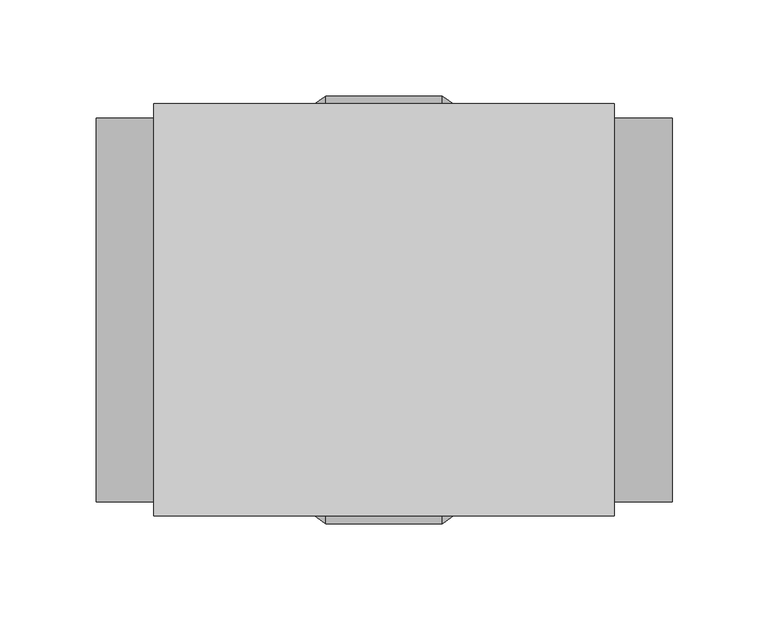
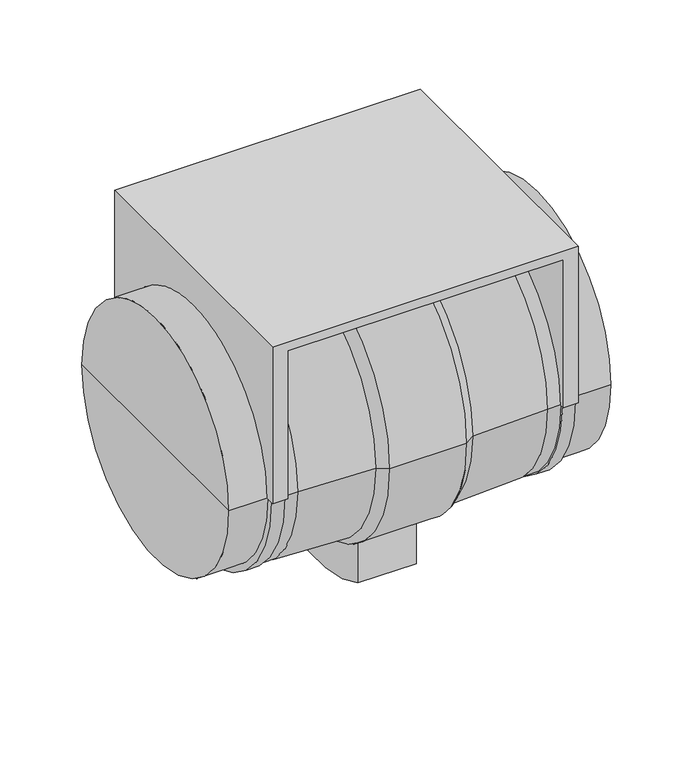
"""IFC4 building model written with IfcOpenShell, lengths in millimetres: unitary equipment geometry, VE-Wentylator-ParaForma-Harmann-ML-Nawiewny : 200/950."""

import ifcopenshell
import ifcopenshell.guid

model = None  # the IFC model being written
_history = None  # IfcOwnerHistory: only IFC2X3 demands one
_inside = {}  # id of a spatial element -> (the spatial element, [elements in it])
_under = {}  # id of a project, library or spatial element -> (it, [spatial elements below it])
_declared = {}  # id of a project -> (the project, [libraries it declares])
_typed = {}  # id of a type object -> (the type object, [elements of that type])
_made_of = {}  # id of a material, layer set ... -> (it, [elements and type objects made of it])


def new_model(schema):
    """Start an empty IFC model of exactly this schema.

    Asked for "IFC4X3", IfcOpenShell would pick the latest addendum, in which some entities
    have other attributes; the version numbers below select the first issue.
    IFC2X3 requires an IfcOwnerHistory on every rooted entity: one is made here for all.
    """
    global model, _history
    if schema == "IFC4X3":
        model = ifcopenshell.file(schema_version=(4, 3, 0, 0))
    else:
        model = ifcopenshell.file(schema=schema)
    _inside.clear()
    _under.clear()
    _declared.clear()
    _typed.clear()
    _made_of.clear()
    _history = None
    if model.schema == "IFC2X3":
        org = make("IfcOrganization", Name="unknown")
        user = make(
            "IfcPersonAndOrganization",
            ThePerson=make("IfcPerson", FamilyName="unknown"),
            TheOrganization=org,
        )
        app = make(
            "IfcApplication",
            ApplicationDeveloper=org,
            Version="unknown",
            ApplicationFullName="unknown",
            ApplicationIdentifier="unknown",
        )
        _history = make(
            "IfcOwnerHistory",
            OwningUser=user,
            OwningApplication=app,
            ChangeAction="ADDED",
            CreationDate=0,
        )
    return model


def make(cls, **values):
    """One entity of the class cls with the attributes given. An attribute that is None is left unset."""
    return model.create_entity(
        cls, **{name: value for name, value in values.items() if value is not None}
    )


def rooted(cls, **values):
    """An entity with a GlobalId (a new one), such as an element, a storey or a relation."""
    return make(cls, GlobalId=ifcopenshell.guid.new(), OwnerHistory=_history, **values)


def si_unit(unit_type, name, prefix=None):
    """IfcSIUnit, for example si_unit("LENGTHUNIT", "METRE", prefix="MILLI")."""
    return make("IfcSIUnit", UnitType=unit_type, Prefix=prefix, Name=name)


def assignment(units):
    """IfcUnitAssignment: the units of a project."""
    return None if units is None else make("IfcUnitAssignment", Units=units)


def point(xyz):
    """IfcCartesianPoint."""
    return None if xyz is None else make("IfcCartesianPoint", Coordinates=xyz)


def direction(xyz):
    """IfcDirection."""
    return None if xyz is None else make("IfcDirection", DirectionRatios=xyz)


def frame(location, z_axis=None, x_axis=None):
    """IfcAxis2Placement3D, a coordinate frame: its origin and axes. An axis left out is left unset."""
    return make(
        "IfcAxis2Placement3D",
        Location=point(location),
        Axis=direction(z_axis),
        RefDirection=direction(x_axis),
    )


def frame_2d(location, x_axis=None):
    """IfcAxis2Placement2D, a coordinate frame in the plane: its origin and x axis."""
    return make(
        "IfcAxis2Placement2D", Location=point(location), RefDirection=direction(x_axis)
    )


def origin():
    """The frame at (0, 0, 0) with its axes left unset."""
    return frame((0.0, 0.0, 0.0))


def origin_2d():
    """The frame at (0, 0) in the plane with its x axis left unset."""
    return frame_2d((0.0, 0.0))


def place(relative_to, where):
    """IfcLocalPlacement: puts the frame where relative to a parent placement (None: the world)."""
    return make(
        "IfcLocalPlacement", PlacementRelTo=relative_to, RelativePlacement=where
    )


def context(
    kind, dimensions, precision=None, world=None, true_north=None, identifier=None
):
    """IfcGeometricRepresentationContext, for example the 3D "Model" context."""
    return make(
        "IfcGeometricRepresentationContext",
        ContextIdentifier=identifier,
        ContextType=kind,
        CoordinateSpaceDimension=dimensions,
        Precision=precision,
        WorldCoordinateSystem=world,
        TrueNorth=true_north,
    )


def project(units=None, contexts=None):
    """IfcProject with its units and contexts."""
    return rooted(
        "IfcProject",
        Name="project",
        RepresentationContexts=contexts,
        UnitsInContext=assignment(units),
    )


def spatial(cls, under=None, at=None, **own):
    """A site, building, storey or space (cls), placed at a placement, below another one or the project."""
    s = rooted(cls, ObjectPlacement=at, **own)
    if under is not None:
        _under.setdefault(under.id(), (under, []))[1].append(s)
    return s


def polyline(points):
    """IfcPolyline through the points."""
    return make("IfcPolyline", Points=[point(p) for p in points])


def circle_curve(where, radius):
    """IfcCircle in the frame where."""
    return make("IfcCircle", Position=where, Radius=radius)


def trimmed(basis, trim1, trim2, sense, master):
    """IfcTrimmedCurve: the piece of a basis curve between two trims."""
    return make(
        "IfcTrimmedCurve",
        BasisCurve=basis,
        Trim1=trim1,
        Trim2=trim2,
        SenseAgreement=sense,
        MasterRepresentation=master,
    )


def segment(curve, same_sense, transition):
    """IfcCompositeCurveSegment."""
    return make(
        "IfcCompositeCurveSegment",
        Transition=transition,
        SameSense=same_sense,
        ParentCurve=curve,
    )


def composite_curve(segments, self_intersect=None):
    """IfcCompositeCurve: segments joined end to end."""
    return make("IfcCompositeCurve", Segments=segments, SelfIntersect=self_intersect)


def outline(outer, holes=None, kind="AREA"):
    """IfcArbitraryClosedProfileDef: a profile drawn as a closed curve; with holes, ...WithVoids."""
    if holes is None:
        return make("IfcArbitraryClosedProfileDef", ProfileType=kind, OuterCurve=outer)
    return make(
        "IfcArbitraryProfileDefWithVoids",
        ProfileType=kind,
        OuterCurve=outer,
        InnerCurves=holes,
    )


def extrude(swept, where, along, depth):
    """IfcExtrudedAreaSolid: the profile swept, set in the frame where, extruded along a direction by depth."""
    return make(
        "IfcExtrudedAreaSolid",
        SweptArea=swept,
        Position=where,
        ExtrudedDirection=direction(along),
        Depth=depth,
    )


def shape(context_of_items, identifier, shape_type, items):
    """IfcShapeRepresentation: the items that make up one representation, for example the "Body"."""
    return make(
        "IfcShapeRepresentation",
        ContextOfItems=context_of_items,
        RepresentationIdentifier=identifier,
        RepresentationType=shape_type,
        Items=items,
    )


def source(mapping_origin, context_of_items, identifier, shape_type, items):
    """IfcRepresentationMap: a shape defined once, which mapped items show again and again."""
    return make(
        "IfcRepresentationMap",
        MappingOrigin=mapping_origin,
        MappedRepresentation=shape(context_of_items, identifier, shape_type, items),
    )


def transform(
    local_origin,
    x_axis=None,
    y_axis=None,
    z_axis=None,
    scale=None,
    scale2=None,
    scale3=None,
    uniform=True,
):
    """IfcCartesianTransformationOperator3D, or its non-uniform kind. x_axis, y_axis, z_axis: its Axis1, 2, 3."""
    if uniform:
        return make(
            "IfcCartesianTransformationOperator3D",
            Axis1=direction(x_axis),
            Axis2=direction(y_axis),
            LocalOrigin=point(local_origin),
            Scale=scale,
            Axis3=direction(z_axis),
        )
    return make(
        "IfcCartesianTransformationOperator3DnonUniform",
        Axis1=direction(x_axis),
        Axis2=direction(y_axis),
        LocalOrigin=point(local_origin),
        Scale=scale,
        Axis3=direction(z_axis),
        Scale2=scale2,
        Scale3=scale3,
    )


def mapped(mapping_source, mapping_target):
    """IfcMappedItem: shows the shape of a source again, moved by a transform."""
    return make(
        "IfcMappedItem", MappingSource=mapping_source, MappingTarget=mapping_target
    )


def made_of(thing, what):
    """Note that an element or type object is made of a material, layer set ...; save() writes the relation."""
    if what is not None:
        _made_of.setdefault(what.id(), (what, []))[1].append(thing)
    return thing


def element(
    cls,
    number,
    at=None,
    inside=None,
    cuts=None,
    type_object=None,
    material=None,
    context=None,
    identifier="Body",
    shape_type=None,
    held_by="IfcProductDefinitionShape",
    body=None,
    shapes=None,
    **own,
):
    """One element of the class cls, such as IfcWall. Its Tag is "e" and its number.

    at: its placement. inside: the storey or other place that contains it. cuts: it is an
    opening in that element (IfcRelVoidsElement). A single representation is given by context,
    identifier, shape_type and body (its items); several are given by shapes. held_by: the class
    of the entity that holds the representations. save() writes the other relations.
    """
    e = rooted(cls, Tag="e%d" % number, ObjectPlacement=at, **own)
    if body is not None:
        shapes = [shape(context, identifier, shape_type, body)]
    if shapes is not None:
        e.Representation = make(held_by, Representations=shapes)
    if inside is not None:
        _inside.setdefault(inside.id(), (inside, []))[1].append(e)
    if cuts is not None:
        rooted(
            "IfcRelVoidsElement", RelatingBuildingElement=cuts, RelatedOpeningElement=e
        )
    if type_object is not None:
        _typed.setdefault(type_object.id(), (type_object, []))[1].append(e)
    return made_of(e, material)


def aggregate(whole, parts):
    """IfcRelAggregates: a whole, such as a stair, and the parts it consists of."""
    return rooted("IfcRelAggregates", RelatingObject=whole, RelatedObjects=parts)


def save(model, path):
    """Write the relations noted so far, then the file.

    IfcRelAggregates (storeys below a building ...), IfcRelContainedInSpatialStructure (elements
    in a storey), IfcRelDefinesByType, IfcRelAssociatesMaterial and IfcRelDeclares: one each for
    every whole, place, type object, material and project.
    """
    for whole, parts in _under.values():
        aggregate(whole, parts)
    for where, things in _inside.values():
        rooted(
            "IfcRelContainedInSpatialStructure",
            RelatedElements=things,
            RelatingStructure=where,
        )
    for kind, things in _typed.values():
        rooted("IfcRelDefinesByType", RelatedObjects=things, RelatingType=kind)
    for what, things in _made_of.values():
        rooted("IfcRelAssociatesMaterial", RelatedObjects=things, RelatingMaterial=what)
    for by, libraries in _declared.values():
        rooted("IfcRelDeclares", RelatingContext=by, RelatedDefinitions=libraries)
    model.write(path)


def plane_surface(at):
    """IfcPlane: the flat surface through the origin of the frame at, square to its z axis."""
    return make("IfcPlane", Position=at)


def cylinder_surface(at, radius):
    """IfcCylindricalSurface: all points at the distance radius from the z axis of the frame at."""
    return make("IfcCylindricalSurface", Position=at, Radius=radius)


def revolved_surface(curve, axis_point, axis_direction):
    """IfcSurfaceOfRevolution: the curve turned about the line through axis_point along axis_direction."""
    return make(
        "IfcSurfaceOfRevolution",
        SweptCurve=make("IfcArbitraryOpenProfileDef", ProfileType="CURVE", Curve=curve),
        AxisPosition=make("IfcAxis1Placement", Location=point(axis_point), Axis=direction(axis_direction)),
    )


def advanced_brep(points, edges, surfaces, faces):
    """IfcAdvancedBrep: a solid bounded by faces that lie on surfaces and meet in shared edges.

    An edge is (start, end): straight between two places in points (the first is 0);
    or (start, end, curve); or (start, end, curve, False) where it runs against its curve.
    A face is (place in surfaces, loops), or (place, loops, False) where it looks against
    its surface's normal. A loop lists edges by number (the first is 1), with a minus sign
    where the edge is run from its end to its start. The first loop is the outer one.
    """
    corners = [point(p) for p in points]
    vertices = [make("IfcVertexPoint", VertexGeometry=c) for c in corners]
    made = []
    for start, end, *more in edges:
        made.append(
            make(
                "IfcEdgeCurve",
                EdgeStart=vertices[start],
                EdgeEnd=vertices[end],
                EdgeGeometry=more[0] if more else make("IfcPolyline", Points=[corners[start], corners[end]]),
                SameSense=more[1] if len(more) > 1 else True,
            )
        )
    hull = []
    for where, loops, *sense in faces:
        bounds = []
        for j, loop in enumerate(loops):
            ring = [make("IfcOrientedEdge", EdgeElement=made[abs(k) - 1], Orientation=k > 0) for k in loop]
            bounds.append(
                make(
                    "IfcFaceOuterBound" if j == 0 else "IfcFaceBound",
                    Bound=make("IfcEdgeLoop", EdgeList=ring),
                    Orientation=True,
                )
            )
        hull.append(make("IfcAdvancedFace", Bounds=bounds, FaceSurface=surfaces[where], SameSense=sense[0] if sense else True))
    return make("IfcAdvancedBrep", Outer=make("IfcClosedShell", CfsFaces=hull))


def unitary_equipment_892ff36d(model_context):
    return source(origin(), model_context, "Body", "SolidModel", [
        extrude(outline(composite_curve([segment(trimmed(circle_curve(origin_2d(), 100.0), [point((-100.0, 0.0))], [point((100.0, 0.0))], True, "CARTESIAN"), True, "CONTINUOUS"), segment(polyline([(100.0, 0.0), (105.0, 0.0)]), True, "CONTINUOUS"), segment(trimmed(circle_curve(origin_2d(), 105.0), [point((105.0, 0.0))], [point((-105.0, 0.0))], False, "CARTESIAN"), True, "CONTINUOUS"), segment(polyline([(-105.0, 0.0), (-100.0, 0.0)]), True, "CONTINUOUS")], self_intersect=False)), frame((109.1, 0.0, 0.0), z_axis=(1.0, 0.0, 0.0), x_axis=(0.0, 1.0, 0.0)), (0.0, 0.0, 1.0), 10.0),
        extrude(outline(composite_curve([segment(trimmed(circle_curve(origin_2d(), 100.0), [point((-100.0, 0.0))], [point((100.0, 0.0))], True, "CARTESIAN"), True, "CONTINUOUS"), segment(polyline([(100.0, 0.0), (105.0, 0.0)]), True, "CONTINUOUS"), segment(trimmed(circle_curve(origin_2d(), 105.0), [point((105.0, 0.0))], [point((-105.0, 0.0))], False, "CARTESIAN"), True, "CONTINUOUS"), segment(polyline([(-105.0, 0.0), (-100.0, 0.0)]), True, "CONTINUOUS")], self_intersect=False)), frame((-119.1, 0.0, 0.0), z_axis=(1.0, 0.0, 0.0), x_axis=(0.0, 1.0, 0.0)), (0.0, 0.0, 1.0), 10.0),
        advanced_brep(
        [(-120.0, 107.5, 0.0), (-120.0, 100.0, 0.0), (-120.0, -100.0, 0.0), (-120.0, -107.5, 0.0), (-120.0, -107.5, 130.0), (-120.0, 107.5, 130.0), (-108.3, -107.5, 0.0), (-108.3, -100.0, 0.0), (-108.3, 100.0, 0.0), (-108.3, 107.5, 0.0), (-108.3, 107.5, 122.8), (-108.3, -107.5, 122.8), (108.3, -107.5, 122.8), (108.3, 107.5, 122.8), (108.3, -107.5, 0.0), (120.0, -107.5, 0.0), (120.0, -107.5, 130.0), (120.0, 107.5, 130.0), (120.0, 107.5, 0.0), (108.3, 107.5, 0.0), (108.3, 100.0, 0.0), (108.3, -100.0, 0.0), (120.0, -100.0, 0.0), (120.0, 100.0, 0.0)],
        [
            (0, 1),
            (1, 2, circle_curve(frame((-120.0, 0.0, 0.0), z_axis=(1.0, 0.0, 0.0), x_axis=(0.0, 1.0, 0.0)), 100.0)),
            (2, 3),
            (3, 4),
            (4, 5),
            (5, 0),
            (6, 7),
            (7, 8, circle_curve(frame((-108.3, 0.0, 0.0), z_axis=(-1.0, 0.0, 0.0), x_axis=(0.0, 1.0, 0.0)), 100.0)),
            (8, 9),
            (9, 10),
            (10, 11),
            (11, 6),
            (12, 11),
            (10, 13),
            (13, 12),
            (3, 6),
            (12, 14),
            (14, 15),
            (15, 16),
            (16, 4),
            (16, 17),
            (17, 5),
            (17, 18),
            (18, 19),
            (19, 13),
            (9, 0),
            (8, 1),
            (7, 2),
            (19, 20),
            (20, 21, circle_curve(frame((108.3, 0.0, 0.0), z_axis=(1.0, 0.0, 0.0), x_axis=(0.0, 1.0, 0.0)), 100.0)),
            (21, 14),
            (15, 22),
            (22, 23, circle_curve(frame((120.0, 0.0, 0.0), z_axis=(-1.0, 0.0, 0.0), x_axis=(0.0, 1.0, 0.0)), 100.0)),
            (23, 18),
            (23, 20),
            (22, 21),
        ],
        [
            plane_surface(frame((-120.0, 0.0, 0.0), z_axis=(-1.0, 0.0, 0.0), x_axis=(0.0, 0.0, 1.0))),
            plane_surface(frame((-108.3, 0.0, 0.0), z_axis=(1.0, 0.0, 0.0), x_axis=(0.0, 0.0, 1.0))),
            plane_surface(frame((-108.3, 107.5, 122.8), z_axis=(0.0, 0.0, -1.0), x_axis=(1.0, 0.0, 0.0))),
            plane_surface(frame((-120.0, -107.5, 0.0), z_axis=(0.0, -1.0, 0.0), x_axis=(1.0, 0.0, 0.0))),
            plane_surface(frame((-120.0, -107.5, 130.0), z_axis=(0.0, 0.0, 1.0), x_axis=(1.0, 0.0, 0.0))),
            plane_surface(frame((-120.0, 107.5, 130.0), z_axis=(0.0, 1.0, 0.0), x_axis=(1.0, 0.0, 0.0))),
            plane_surface(frame((-120.0, 107.5, 0.0), z_axis=(0.0, 0.0, -1.0), x_axis=(1.0, 0.0, 0.0))),
            revolved_surface(polyline([(-108.3, 100.0, 0.0), (-120.0, 100.0, 0.0)]), (-120.0, 0.0, 0.0), (1.0, 0.0, 0.0)),
            plane_surface(frame((-120.0, -100.0, 0.0), z_axis=(0.0, 0.0, -1.0), x_axis=(1.0, 0.0, 0.0))),
            plane_surface(frame((108.3, 0.0, 0.0), z_axis=(-1.0, 0.0, 0.0), x_axis=(0.0, 0.0, 1.0))),
            plane_surface(frame((120.0, 0.0, 0.0), z_axis=(1.0, 0.0, 0.0), x_axis=(0.0, 0.0, 1.0))),
            plane_surface(frame((108.3, 107.5, 0.0), z_axis=(0.0, 0.0, -1.0), x_axis=(1.0, 0.0, 0.0))),
            revolved_surface(polyline([(120.0, 100.0, 0.0), (108.3, 100.0, 0.0)]), (108.3, 0.0, 0.0), (1.0, 0.0, 0.0)),
            plane_surface(frame((108.3, -100.0, 0.0), z_axis=(0.0, 0.0, -1.0), x_axis=(1.0, 0.0, 0.0))),
        ],
        [
            (0, [[1, 2, 3, 4, 5, 6]]),
            (1, [[7, 8, 9, 10, 11, 12]]),
            (2, [[13, -11, 14, 15]]),
            (3, [[-4, 16, -12, -13, 17, 18, 19, 20]]),
            (4, [[-5, -20, 21, 22]]),
            (5, [[-6, -22, 23, 24, 25, -14, -10, 26]]),
            (6, [[-1, -26, -9, 27]]),
            (7, [[-2, -27, -8, 28]]),
            (8, [[-3, -28, -7, -16]]),
            (9, [[29, 30, 31, -17, -15, -25]]),
            (10, [[-23, -21, -19, 32, 33, 34]]),
            (11, [[-29, -24, -34, 35]]),
            (12, [[-30, -35, -33, 36]]),
            (13, [[-31, -36, -32, -18]]),
        ],
    ),
        advanced_brep(
        [(-22.9, 55.0, -131.5), (-22.9, -55.0, -131.5), (-22.9, -55.0, -96.990979), (-22.9, 55.0, -96.990979), (22.9, -55.0, -131.5), (22.9, 55.0, -131.5), (22.9, 55.0, -96.990979), (22.9, -55.0, -96.990979), (150.0, -100.0, 0.0), (150.0, 100.0, 0.0), (150.0, 0.0, 0.0), (108.3, -100.0, 0.0), (108.3, 100.0, 0.0), (30.3, -111.5, 0.0), (30.3, 111.5, 0.0), (37.9, 106.1, 0.0), (37.9, -106.1, 0.0), (-30.3, -111.5, 0.0), (-30.3, 111.5, 0.0), (-37.9, -106.1, 0.0), (-37.9, 106.1, 0.0), (-150.0, -100.0, 0.0), (-150.0, 100.0, 0.0), (-108.3, 100.0, 0.0), (-108.3, -100.0, 0.0), (-150.0, 0.0, 0.0), (108.3, -103.9, 0.0), (108.3, 103.9, 0.0), (98.0, -103.9, 0.0), (98.0, 103.9, 0.0), (-98.0, -103.9, 0.0), (-98.0, 103.9, 0.0), (-108.3, -103.9, 0.0), (-108.3, 103.9, 0.0)],
        [
            (0, 1, circle_curve(frame((-22.9, 0.0, -34.509021), z_axis=(-1.0, 0.0, 0.0), x_axis=(0.0, 0.999999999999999, 0.0)), 111.5)),
            (1, 2),
            (2, 3, circle_curve(frame((-22.9, 0.0, 0.0), z_axis=(1.0, 0.0, 0.0), x_axis=(0.0, 0.999999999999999, 0.0)), 111.5)),
            (3, 0),
            (4, 5, circle_curve(frame((22.9, 0.0, -34.509021), z_axis=(1.0, 0.0, 0.0), x_axis=(0.0, 0.999999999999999, 0.0)), 111.5)),
            (5, 6),
            (6, 7, circle_curve(frame((22.9, 0.0, 0.0), z_axis=(-1.0, 0.0, 0.0), x_axis=(0.0, 0.999999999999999, 0.0)), 111.5)),
            (7, 4),
            (0, 5),
            (4, 1),
            (7, 2),
            (3, 6),
            (8, 9, circle_curve(frame((150.0, 0.0, 0.0), z_axis=(1.0, 0.0, 0.0), x_axis=(0.0, 0.999999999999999, 0.0)), 100.0)),
            (9, 10),
            (10, 8),
            (9, 8, circle_curve(frame((150.0, 0.0, 0.0), z_axis=(1.0, 0.0, 0.0), x_axis=(0.0, 0.999999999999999, 0.0)), 100.0)),
            (8, 11),
            (11, 12, circle_curve(frame((108.3, 0.0, 0.0), z_axis=(1.0, 0.0, 0.0), x_axis=(0.0, 0.999999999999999, 0.0)), 100.0)),
            (12, 9),
            (12, 11, circle_curve(frame((108.3, 0.0, 0.0), z_axis=(1.0, 0.0, 0.0), x_axis=(0.0, 0.999999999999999, 0.0)), 100.0)),
            (13, 14, circle_curve(frame((30.3, 0.0, 0.0), z_axis=(1.0, 0.0, 0.0), x_axis=(0.0, 0.999999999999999, 0.0)), 111.5)),
            (14, 15),
            (15, 16, circle_curve(frame((37.9, 0.0, 0.0), z_axis=(-1.0, 0.0, 0.0), x_axis=(0.0, 0.999999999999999, 0.0)), 106.1)),
            (16, 13),
            (14, 13, circle_curve(frame((30.3, 0.0, 0.0), z_axis=(1.0, 0.0, 0.0), x_axis=(0.0, 0.999999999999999, 0.0)), 111.5)),
            (16, 15, circle_curve(frame((37.9, 0.0, 0.0), z_axis=(-1.0, 0.0, 0.0), x_axis=(0.0, 0.999999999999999, 0.0)), 106.1)),
            (13, 17),
            (17, 18, circle_curve(frame((-30.3, 0.0, 0.0), z_axis=(1.0, 0.0, 0.0), x_axis=(0.0, 0.999999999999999, 0.0)), 111.5)),
            (18, 14),
            (18, 17, circle_curve(frame((-30.3, 0.0, 0.0), z_axis=(1.0, 0.0, 0.0), x_axis=(0.0, 0.999999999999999, 0.0)), 111.5)),
            (17, 19),
            (19, 20, circle_curve(frame((-37.9, 0.0, 0.0), z_axis=(1.0, 0.0, 0.0), x_axis=(0.0, 0.999999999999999, 0.0)), 106.1)),
            (20, 18),
            (20, 19, circle_curve(frame((-37.9, 0.0, 0.0), z_axis=(1.0, 0.0, 0.0), x_axis=(0.0, 0.999999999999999, 0.0)), 106.1)),
            (21, 22, circle_curve(frame((-150.0, 0.0, 0.0), z_axis=(1.0, 0.0, 0.0), x_axis=(0.0, 0.999999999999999, 0.0)), 100.0)),
            (22, 23),
            (23, 24, circle_curve(frame((-108.3, 0.0, 0.0), z_axis=(-1.0, 0.0, 0.0), x_axis=(0.0, 0.999999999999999, 0.0)), 100.0)),
            (24, 21),
            (22, 21, circle_curve(frame((-150.0, 0.0, 0.0), z_axis=(1.0, 0.0, 0.0), x_axis=(0.0, 0.999999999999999, 0.0)), 100.0)),
            (24, 23, circle_curve(frame((-108.3, 0.0, 0.0), z_axis=(-1.0, 0.0, 0.0), x_axis=(0.0, 0.999999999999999, 0.0)), 100.0)),
            (21, 25),
            (25, 22),
            (11, 26),
            (26, 27, circle_curve(frame((108.3, 0.0, 0.0), z_axis=(1.0, 0.0, 0.0), x_axis=(0.0, 0.999999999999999, 0.0)), 103.9)),
            (27, 12),
            (27, 26, circle_curve(frame((108.3, 0.0, 0.0), z_axis=(1.0, 0.0, 0.0), x_axis=(0.0, 0.999999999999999, 0.0)), 103.9)),
            (26, 28),
            (28, 29, circle_curve(frame((98.0, 0.0, 0.0), z_axis=(1.0, 0.0, 0.0), x_axis=(0.0, 0.999999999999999, 0.0)), 103.9)),
            (29, 27),
            (29, 28, circle_curve(frame((98.0, 0.0, 0.0), z_axis=(1.0, 0.0, 0.0), x_axis=(0.0, 0.999999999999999, 0.0)), 103.9)),
            (15, 29),
            (28, 16),
            (19, 30),
            (30, 31, circle_curve(frame((-98.0, 0.0, 0.0), z_axis=(1.0, 0.0, 0.0), x_axis=(0.0, 0.999999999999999, 0.0)), 103.9)),
            (31, 20),
            (31, 30, circle_curve(frame((-98.0, 0.0, 0.0), z_axis=(1.0, 0.0, 0.0), x_axis=(0.0, 0.999999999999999, 0.0)), 103.9)),
            (30, 32),
            (32, 33, circle_curve(frame((-108.3, 0.0, 0.0), z_axis=(1.0, 0.0, 0.0), x_axis=(0.0, 0.999999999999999, 0.0)), 103.9)),
            (33, 31),
            (33, 32, circle_curve(frame((-108.3, 0.0, 0.0), z_axis=(1.0, 0.0, 0.0), x_axis=(0.0, 0.999999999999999, 0.0)), 103.9)),
            (23, 33),
            (32, 24),
        ],
        [
            plane_surface(frame((-22.9, 0.0, 0.0), z_axis=(-1.0, 0.0, 0.0), x_axis=(0.0, 0.0, 1.0))),
            plane_surface(frame((22.9, 0.0, 0.0), z_axis=(1.0, 0.0, 0.0), x_axis=(0.0, 0.0, 1.0))),
            cylinder_surface(frame((-22.9, 0.0, -34.509021), z_axis=(-0.9999999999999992, 0.0, 0.0), x_axis=(0.0, 0.999999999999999, 0.0)), 111.5),
            plane_surface(frame((-22.9, -55.0, -131.5), z_axis=(0.0, -1.0, 0.0), x_axis=(1.0, 0.0, 0.0))),
            plane_surface(frame((-22.9, 55.0, 0.0), z_axis=(0.0, 1.0, 0.0), x_axis=(1.0, 0.0, 0.0))),
            plane_surface(frame((150.0, 0.0, 0.0), z_axis=(1.0, 0.0, 0.0), x_axis=(0.0, 1.0, 0.0))),
            cylinder_surface(frame((-150.0, 0.0, 0.0), z_axis=(-0.9999999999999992, 0.0, 0.0), x_axis=(0.0, 0.999999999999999, 0.0)), 100.0),
            revolved_surface(polyline([(37.9, 106.1, 0.0), (30.3, 111.5, 0.0)]), (-150.0, 0.0, 0.0), (-0.9999999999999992, 0.0, 0.0)),
            cylinder_surface(frame((-150.0, 0.0, 0.0), z_axis=(-0.9999999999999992, 0.0, 0.0), x_axis=(0.0, 0.999999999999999, 0.0)), 111.5),
            revolved_surface(polyline([(-30.3, 111.5, 0.0), (-37.9, 106.1, 0.0)]), (-150.0, 0.0, 0.0), (-0.9999999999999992, 0.0, 0.0)),
            plane_surface(frame((-150.0, 0.0, 0.0), z_axis=(-1.0, 0.0, 0.0), x_axis=(0.0, 1.0, 0.0))),
            plane_surface(frame((108.3, 0.0, 0.0), z_axis=(1.0, 0.0, 0.0), x_axis=(0.0, 1.0, 0.0))),
            cylinder_surface(frame((-150.0, 0.0, 0.0), z_axis=(-0.9999999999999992, 0.0, 0.0), x_axis=(0.0, 0.999999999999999, 0.0)), 103.9),
            revolved_surface(polyline([(98.0, 103.9, 0.0), (37.9, 106.1, 0.0)]), (-150.0, 0.0, 0.0), (-0.9999999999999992, 0.0, 0.0)),
            revolved_surface(polyline([(-37.9, 106.1, 0.0), (-98.0, 103.9, 0.0)]), (-150.0, 0.0, 0.0), (-0.9999999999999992, 0.0, 0.0)),
            plane_surface(frame((-108.3, 0.0, 0.0), z_axis=(-1.0, 0.0, 0.0), x_axis=(0.0, 1.0, 0.0))),
        ],
        [
            (0, [[1, 2, 3, 4]]),
            (1, [[5, 6, 7, 8]]),
            (2, [[-1, 9, -5, 10]]),
            (3, [[-10, -8, 11, -2]]),
            (4, [[-9, -4, 12, -6]]),
            (5, [[13, 14, 15]]),
            (5, [[-14, 16, -15]]),
            (6, [[-13, 17, 18, 19]]),
            (6, [[-16, -19, 20, -17]]),
            (7, [[21, 22, 23, 24]]),
            (7, [[-22, 25, -24, 26]]),
            (8, [[-21, 27, 28, 29], [-3, -11, -7, -12]]),
            (8, [[-25, -29, 30, -27]]),
            (9, [[-28, 31, 32, 33]]),
            (9, [[-30, -33, 34, -31]]),
            (6, [[35, 36, 37, 38]]),
            (6, [[-36, 39, -38, 40]]),
            (10, [[-35, 41, 42]]),
            (10, [[-39, -42, -41]]),
            (11, [[-18, 43, 44, 45]]),
            (11, [[-20, -45, 46, -43]]),
            (12, [[-44, 47, 48, 49]]),
            (12, [[-46, -49, 50, -47]]),
            (13, [[-23, 51, -48, 52]]),
            (13, [[-26, -52, -50, -51]]),
            (14, [[-32, 53, 54, 55]]),
            (14, [[-34, -55, 56, -53]]),
            (12, [[-54, 57, 58, 59]]),
            (12, [[-56, -59, 60, -57]]),
            (15, [[-37, 61, -58, 62]]),
            (15, [[-40, -62, -60, -61]]),
        ],
    ),
    ])


if __name__ == "__main__":
    model = new_model("IFC4")
    model_context = context("Model", 3, world=origin())
    ifc_project = project(units=[si_unit("LENGTHUNIT", "METRE", prefix="MILLI")], contexts=[model_context])
    site = spatial("IfcSite", under=ifc_project)
    building = spatial("IfcBuilding", under=site)
    placement = place(None, origin())
    unitary_equipment_shape = unitary_equipment_892ff36d(model_context)
    element("IfcUnitaryEquipment", 1, ObjectType="VE-Wentylator-ParaForma-Harmann-ML-Nawiewny : 200/950", at=placement, inside=building, context=model_context, shape_type="MappedRepresentation", body=[
        mapped(unitary_equipment_shape, transform((0.0, 0.0, 0.0), x_axis=(1.0, 0.0, 0.0), y_axis=(0.0, 1.0, 0.0), z_axis=(0.0, 0.0, 1.0))),
    ])
    save(model, "model.ifc")
